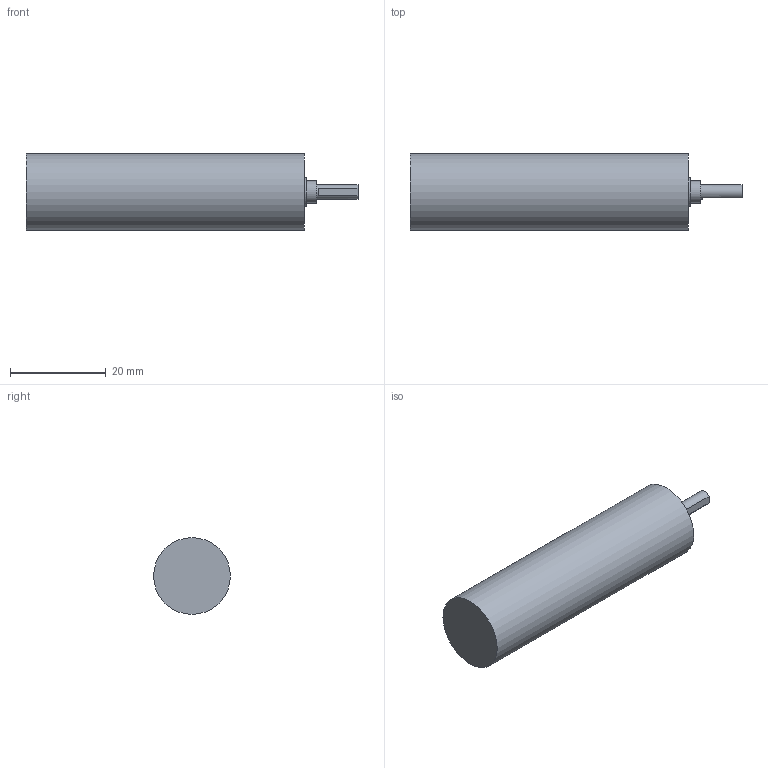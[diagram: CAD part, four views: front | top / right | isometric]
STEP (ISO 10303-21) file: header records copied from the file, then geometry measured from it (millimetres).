
FILE_DESCRIPTION(/* description */ (''),/* implementation_level */ '2;1');
FILE_NAME(/* name */ 'C:/Users/priba/Documents/Temp/Export/mrm-bldc16x36-42.3 v2.step',/* time_stamp */ '2019-09-09T12:19:40+02:00',/* author */ (''),/* organization */ (''),/* preprocessor_version */ 'ST-DEVELOPER v18',/* originating_system */ 'Autodesk Translation Framework v8.6.0.1094',/* authorisation */ '');
FILE_SCHEMA (('AUTOMOTIVE_DESIGN { 1 0 10303 214 3 1 1 }'));
Length unit declared in the file: millimetre
Products named in the file (1): mrm-bldc16x36-42.3
Bounding box: 69.25 x 16 x 16 mm (x, y, z)
Volume: 11694.1 mm3; surface area: 3588.8 mm2
Topology: 1 solids, 1 shells, 19 faces, 37 edges, 27 vertices
Faces by surface type: plane 11, cylinder 8
Full cylindrical faces by diameter (mm): 2 x4, 3 x1, 4.6 x1, 6 x1, 16 x1
Entity records: 545 total; most frequent: DIRECTION 102, CARTESIAN_POINT 84, ORIENTED_EDGE 74, AXIS2_PLACEMENT_3D 45, EDGE_CURVE 37, VERTEX_POINT 27, EDGE_LOOP 26, CIRCLE 25
